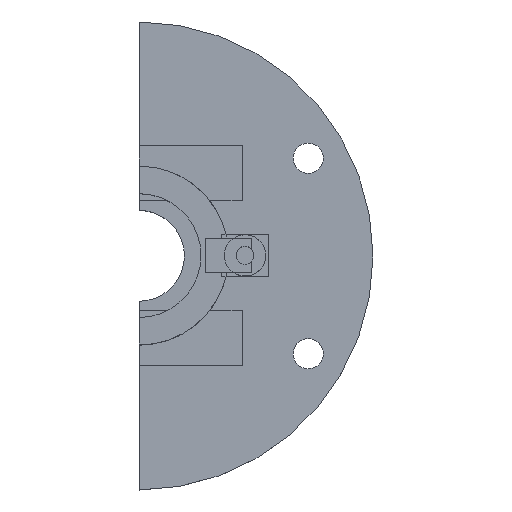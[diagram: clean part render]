
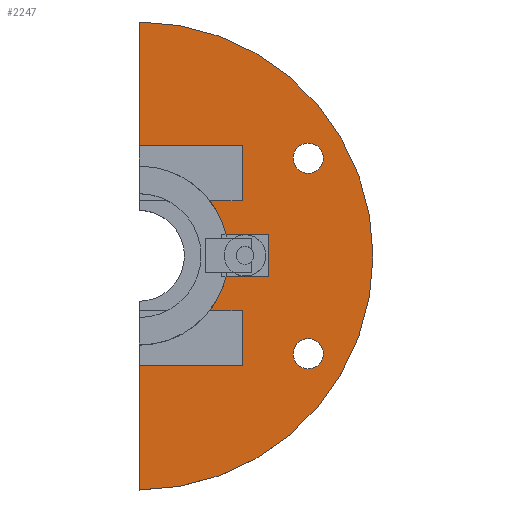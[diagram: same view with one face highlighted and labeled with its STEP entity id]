
A CAD part, top view. The second image highlights one B-rep face of the part: STEP entity #2247.
In plain terms, the highlighted planar face has unit normal (0, 0, 1).
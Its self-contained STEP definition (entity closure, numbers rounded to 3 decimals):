
#100 = PLANE('',#101);
#101 = AXIS2_PLACEMENT_3D('',#102,#103,#104);
#102 = CARTESIAN_POINT('',(0.,-60.,-70.));
#103 = DIRECTION('',(1.,0.,0.));
#104 = DIRECTION('',(0.,0.,1.));
#213 = PLANE('',#214);
#214 = AXIS2_PLACEMENT_3D('',#215,#216,#217);
#215 = CARTESIAN_POINT('',(0.,-60.,-70.));
#216 = DIRECTION('',(1.,0.,0.));
#217 = DIRECTION('',(0.,0.,1.));
#1013 = VERTEX_POINT('',#1014);
#1014 = CARTESIAN_POINT('',(0.,17.,3.));
#1027 = CYLINDRICAL_SURFACE('',#1028,17.);
#1028 = AXIS2_PLACEMENT_3D('',#1029,#1030,#1031);
#1029 = CARTESIAN_POINT('',(0.,0.,1.5));
#1030 = DIRECTION('',(0.,0.,1.));
#1031 = DIRECTION('',(1.,0.,-0.));
#1038 = EDGE_CURVE('',#1039,#1013,#1041,.T.);
#1039 = VERTEX_POINT('',#1040);
#1040 = CARTESIAN_POINT('',(0.,6.5,3.));
#1041 = SURFACE_CURVE('',#1042,(#1046,#1052),.PCURVE_S1.);
#1042 = LINE('',#1043,#1044);
#1043 = CARTESIAN_POINT('',(0.,-30.,3.));
#1044 = VECTOR('',#1045,1.);
#1045 = DIRECTION('',(0.,1.,0.));
#1046 = PCURVE('',#100,#1047);
#1047 = DEFINITIONAL_REPRESENTATION('',(#1048),#1051);
#1048 = B_SPLINE_CURVE_WITH_KNOTS('',1,(#1049,#1050),.UNSPECIFIED.,.F.,
  .F.,(2,2),(13.,47.),.PIECEWISE_BEZIER_KNOTS.);
#1049 = CARTESIAN_POINT('',(73.,-43.));
#1050 = CARTESIAN_POINT('',(73.,-77.));
#1051 = ( GEOMETRIC_REPRESENTATION_CONTEXT(2) 
PARAMETRIC_REPRESENTATION_CONTEXT() REPRESENTATION_CONTEXT('2D SPACE',''
  ) );
#1052 = PCURVE('',#1053,#1058);
#1053 = PLANE('',#1054);
#1054 = AXIS2_PLACEMENT_3D('',#1055,#1056,#1057);
#1055 = CARTESIAN_POINT('',(0.,0.,3.));
#1056 = DIRECTION('',(0.,0.,1.));
#1057 = DIRECTION('',(1.,0.,-0.));
#1058 = DEFINITIONAL_REPRESENTATION('',(#1059),#1062);
#1059 = B_SPLINE_CURVE_WITH_KNOTS('',1,(#1060,#1061),.UNSPECIFIED.,.F.,
  .F.,(2,2),(13.,47.),.PIECEWISE_BEZIER_KNOTS.);
#1060 = CARTESIAN_POINT('',(0.,-17.));
#1061 = CARTESIAN_POINT('',(0.,17.));
#1062 = ( GEOMETRIC_REPRESENTATION_CONTEXT(2) 
PARAMETRIC_REPRESENTATION_CONTEXT() REPRESENTATION_CONTEXT('2D SPACE',''
  ) );
#1077 = CYLINDRICAL_SURFACE('',#1078,6.5);
#1078 = AXIS2_PLACEMENT_3D('',#1079,#1080,#1081);
#1079 = CARTESIAN_POINT('',(0.,0.,1.5));
#1080 = DIRECTION('',(0.,0.,1.));
#1081 = DIRECTION('',(1.,0.,-0.));
#1210 = CYLINDRICAL_SURFACE('',#1211,6.5);
#1211 = AXIS2_PLACEMENT_3D('',#1212,#1213,#1214);
#1212 = CARTESIAN_POINT('',(0.,0.,1.5));
#1213 = DIRECTION('',(0.,0.,1.));
#1214 = DIRECTION('',(1.,0.,-0.));
#1228 = VERTEX_POINT('',#1229);
#1229 = CARTESIAN_POINT('',(0.,-6.5,3.));
#1248 = EDGE_CURVE('',#1249,#1228,#1251,.T.);
#1249 = VERTEX_POINT('',#1250);
#1250 = CARTESIAN_POINT('',(0.,-17.,3.));
#1251 = SURFACE_CURVE('',#1252,(#1256,#1262),.PCURVE_S1.);
#1252 = LINE('',#1253,#1254);
#1253 = CARTESIAN_POINT('',(0.,-30.,3.));
#1254 = VECTOR('',#1255,1.);
#1255 = DIRECTION('',(0.,1.,0.));
#1256 = PCURVE('',#213,#1257);
#1257 = DEFINITIONAL_REPRESENTATION('',(#1258),#1261);
#1258 = B_SPLINE_CURVE_WITH_KNOTS('',1,(#1259,#1260),.UNSPECIFIED.,.F.,
  .F.,(2,2),(13.,47.),.PIECEWISE_BEZIER_KNOTS.);
#1259 = CARTESIAN_POINT('',(73.,-43.));
#1260 = CARTESIAN_POINT('',(73.,-77.));
#1261 = ( GEOMETRIC_REPRESENTATION_CONTEXT(2) 
PARAMETRIC_REPRESENTATION_CONTEXT() REPRESENTATION_CONTEXT('2D SPACE',''
  ) );
#1262 = PCURVE('',#1053,#1263);
#1263 = DEFINITIONAL_REPRESENTATION('',(#1264),#1267);
#1264 = B_SPLINE_CURVE_WITH_KNOTS('',1,(#1265,#1266),.UNSPECIFIED.,.F.,
  .F.,(2,2),(13.,47.),.PIECEWISE_BEZIER_KNOTS.);
#1265 = CARTESIAN_POINT('',(0.,-17.));
#1266 = CARTESIAN_POINT('',(0.,17.));
#1267 = ( GEOMETRIC_REPRESENTATION_CONTEXT(2) 
PARAMETRIC_REPRESENTATION_CONTEXT() REPRESENTATION_CONTEXT('2D SPACE',''
  ) );
#1284 = CYLINDRICAL_SURFACE('',#1285,17.);
#1285 = AXIS2_PLACEMENT_3D('',#1286,#1287,#1288);
#1286 = CARTESIAN_POINT('',(0.,0.,1.5));
#1287 = DIRECTION('',(0.,0.,1.));
#1288 = DIRECTION('',(1.,0.,-0.));
#2202 = VERTEX_POINT('',#2203);
#2203 = CARTESIAN_POINT('',(6.5,0.,3.));
#2224 = EDGE_CURVE('',#2202,#1039,#2225,.T.);
#2225 = SURFACE_CURVE('',#2226,(#2231,#2238),.PCURVE_S1.);
#2226 = CIRCLE('',#2227,6.5);
#2227 = AXIS2_PLACEMENT_3D('',#2228,#2229,#2230);
#2228 = CARTESIAN_POINT('',(0.,0.,3.));
#2229 = DIRECTION('',(0.,0.,1.));
#2230 = DIRECTION('',(1.,0.,-0.));
#2231 = PCURVE('',#1077,#2232);
#2232 = DEFINITIONAL_REPRESENTATION('',(#2233),#2237);
#2233 = LINE('',#2234,#2235);
#2234 = CARTESIAN_POINT('',(0.,1.5));
#2235 = VECTOR('',#2236,1.);
#2236 = DIRECTION('',(1.,0.));
#2237 = ( GEOMETRIC_REPRESENTATION_CONTEXT(2) 
PARAMETRIC_REPRESENTATION_CONTEXT() REPRESENTATION_CONTEXT('2D SPACE',''
  ) );
#2238 = PCURVE('',#1053,#2239);
#2239 = DEFINITIONAL_REPRESENTATION('',(#2240),#2244);
#2240 = CIRCLE('',#2241,6.5);
#2241 = AXIS2_PLACEMENT_2D('',#2242,#2243);
#2242 = CARTESIAN_POINT('',(0.,0.));
#2243 = DIRECTION('',(1.,0.));
#2244 = ( GEOMETRIC_REPRESENTATION_CONTEXT(2) 
PARAMETRIC_REPRESENTATION_CONTEXT() REPRESENTATION_CONTEXT('2D SPACE',''
  ) );
#2247 = ADVANCED_FACE('',(#2248,#2321,#2352),#1053,.T.);
#2248 = FACE_BOUND('',#2249,.T.);
#2249 = EDGE_LOOP('',(#2250,#2274,#2296,#2297,#2298,#2320));
#2250 = ORIENTED_EDGE('',*,*,#2251,.T.);
#2251 = EDGE_CURVE('',#1249,#2252,#2254,.T.);
#2252 = VERTEX_POINT('',#2253);
#2253 = CARTESIAN_POINT('',(17.,0.,3.));
#2254 = SURFACE_CURVE('',#2255,(#2260,#2267),.PCURVE_S1.);
#2255 = CIRCLE('',#2256,17.);
#2256 = AXIS2_PLACEMENT_3D('',#2257,#2258,#2259);
#2257 = CARTESIAN_POINT('',(0.,0.,3.));
#2258 = DIRECTION('',(0.,0.,1.));
#2259 = DIRECTION('',(1.,0.,-0.));
#2260 = PCURVE('',#1053,#2261);
#2261 = DEFINITIONAL_REPRESENTATION('',(#2262),#2266);
#2262 = CIRCLE('',#2263,17.);
#2263 = AXIS2_PLACEMENT_2D('',#2264,#2265);
#2264 = CARTESIAN_POINT('',(0.,0.));
#2265 = DIRECTION('',(1.,0.));
#2266 = ( GEOMETRIC_REPRESENTATION_CONTEXT(2) 
PARAMETRIC_REPRESENTATION_CONTEXT() REPRESENTATION_CONTEXT('2D SPACE',''
  ) );
#2267 = PCURVE('',#1284,#2268);
#2268 = DEFINITIONAL_REPRESENTATION('',(#2269),#2273);
#2269 = LINE('',#2270,#2271);
#2270 = CARTESIAN_POINT('',(0.,1.5));
#2271 = VECTOR('',#2272,1.);
#2272 = DIRECTION('',(1.,0.));
#2273 = ( GEOMETRIC_REPRESENTATION_CONTEXT(2) 
PARAMETRIC_REPRESENTATION_CONTEXT() REPRESENTATION_CONTEXT('2D SPACE',''
  ) );
#2274 = ORIENTED_EDGE('',*,*,#2275,.T.);
#2275 = EDGE_CURVE('',#2252,#1013,#2276,.T.);
#2276 = SURFACE_CURVE('',#2277,(#2282,#2289),.PCURVE_S1.);
#2277 = CIRCLE('',#2278,17.);
#2278 = AXIS2_PLACEMENT_3D('',#2279,#2280,#2281);
#2279 = CARTESIAN_POINT('',(0.,0.,3.));
#2280 = DIRECTION('',(0.,0.,1.));
#2281 = DIRECTION('',(1.,0.,-0.));
#2282 = PCURVE('',#1053,#2283);
#2283 = DEFINITIONAL_REPRESENTATION('',(#2284),#2288);
#2284 = CIRCLE('',#2285,17.);
#2285 = AXIS2_PLACEMENT_2D('',#2286,#2287);
#2286 = CARTESIAN_POINT('',(0.,0.));
#2287 = DIRECTION('',(1.,0.));
#2288 = ( GEOMETRIC_REPRESENTATION_CONTEXT(2) 
PARAMETRIC_REPRESENTATION_CONTEXT() REPRESENTATION_CONTEXT('2D SPACE',''
  ) );
#2289 = PCURVE('',#1027,#2290);
#2290 = DEFINITIONAL_REPRESENTATION('',(#2291),#2295);
#2291 = LINE('',#2292,#2293);
#2292 = CARTESIAN_POINT('',(0.,1.5));
#2293 = VECTOR('',#2294,1.);
#2294 = DIRECTION('',(1.,0.));
#2295 = ( GEOMETRIC_REPRESENTATION_CONTEXT(2) 
PARAMETRIC_REPRESENTATION_CONTEXT() REPRESENTATION_CONTEXT('2D SPACE',''
  ) );
#2296 = ORIENTED_EDGE('',*,*,#1038,.F.);
#2297 = ORIENTED_EDGE('',*,*,#2224,.F.);
#2298 = ORIENTED_EDGE('',*,*,#2299,.F.);
#2299 = EDGE_CURVE('',#1228,#2202,#2300,.T.);
#2300 = SURFACE_CURVE('',#2301,(#2306,#2313),.PCURVE_S1.);
#2301 = CIRCLE('',#2302,6.5);
#2302 = AXIS2_PLACEMENT_3D('',#2303,#2304,#2305);
#2303 = CARTESIAN_POINT('',(0.,0.,3.));
#2304 = DIRECTION('',(0.,0.,1.));
#2305 = DIRECTION('',(1.,0.,-0.));
#2306 = PCURVE('',#1053,#2307);
#2307 = DEFINITIONAL_REPRESENTATION('',(#2308),#2312);
#2308 = CIRCLE('',#2309,6.5);
#2309 = AXIS2_PLACEMENT_2D('',#2310,#2311);
#2310 = CARTESIAN_POINT('',(0.,0.));
#2311 = DIRECTION('',(1.,0.));
#2312 = ( GEOMETRIC_REPRESENTATION_CONTEXT(2) 
PARAMETRIC_REPRESENTATION_CONTEXT() REPRESENTATION_CONTEXT('2D SPACE',''
  ) );
#2313 = PCURVE('',#1210,#2314);
#2314 = DEFINITIONAL_REPRESENTATION('',(#2315),#2319);
#2315 = LINE('',#2316,#2317);
#2316 = CARTESIAN_POINT('',(0.,1.5));
#2317 = VECTOR('',#2318,1.);
#2318 = DIRECTION('',(1.,0.));
#2319 = ( GEOMETRIC_REPRESENTATION_CONTEXT(2) 
PARAMETRIC_REPRESENTATION_CONTEXT() REPRESENTATION_CONTEXT('2D SPACE',''
  ) );
#2320 = ORIENTED_EDGE('',*,*,#1248,.F.);
#2321 = FACE_BOUND('',#2322,.T.);
#2322 = EDGE_LOOP('',(#2323));
#2323 = ORIENTED_EDGE('',*,*,#2324,.F.);
#2324 = EDGE_CURVE('',#2325,#2325,#2327,.T.);
#2325 = VERTEX_POINT('',#2326);
#2326 = CARTESIAN_POINT('',(13.4,-7.1,3.));
#2327 = SURFACE_CURVE('',#2328,(#2333,#2340),.PCURVE_S1.);
#2328 = CIRCLE('',#2329,1.1);
#2329 = AXIS2_PLACEMENT_3D('',#2330,#2331,#2332);
#2330 = CARTESIAN_POINT('',(12.3,-7.1,3.));
#2331 = DIRECTION('',(0.,0.,1.));
#2332 = DIRECTION('',(1.,0.,-0.));
#2333 = PCURVE('',#1053,#2334);
#2334 = DEFINITIONAL_REPRESENTATION('',(#2335),#2339);
#2335 = CIRCLE('',#2336,1.1);
#2336 = AXIS2_PLACEMENT_2D('',#2337,#2338);
#2337 = CARTESIAN_POINT('',(12.3,-7.1));
#2338 = DIRECTION('',(1.,0.));
#2339 = ( GEOMETRIC_REPRESENTATION_CONTEXT(2) 
PARAMETRIC_REPRESENTATION_CONTEXT() REPRESENTATION_CONTEXT('2D SPACE',''
  ) );
#2340 = PCURVE('',#2341,#2346);
#2341 = CYLINDRICAL_SURFACE('',#2342,1.1);
#2342 = AXIS2_PLACEMENT_3D('',#2343,#2344,#2345);
#2343 = CARTESIAN_POINT('',(12.3,-7.1,1.4));
#2344 = DIRECTION('',(0.,0.,1.));
#2345 = DIRECTION('',(1.,0.,-0.));
#2346 = DEFINITIONAL_REPRESENTATION('',(#2347),#2351);
#2347 = LINE('',#2348,#2349);
#2348 = CARTESIAN_POINT('',(0.,1.6));
#2349 = VECTOR('',#2350,1.);
#2350 = DIRECTION('',(1.,0.));
#2351 = ( GEOMETRIC_REPRESENTATION_CONTEXT(2) 
PARAMETRIC_REPRESENTATION_CONTEXT() REPRESENTATION_CONTEXT('2D SPACE',''
  ) );
#2352 = FACE_BOUND('',#2353,.T.);
#2353 = EDGE_LOOP('',(#2354));
#2354 = ORIENTED_EDGE('',*,*,#2355,.F.);
#2355 = EDGE_CURVE('',#2356,#2356,#2358,.T.);
#2356 = VERTEX_POINT('',#2357);
#2357 = CARTESIAN_POINT('',(13.4,7.1,3.));
#2358 = SURFACE_CURVE('',#2359,(#2364,#2371),.PCURVE_S1.);
#2359 = CIRCLE('',#2360,1.1);
#2360 = AXIS2_PLACEMENT_3D('',#2361,#2362,#2363);
#2361 = CARTESIAN_POINT('',(12.3,7.1,3.));
#2362 = DIRECTION('',(0.,0.,1.));
#2363 = DIRECTION('',(1.,0.,-0.));
#2364 = PCURVE('',#1053,#2365);
#2365 = DEFINITIONAL_REPRESENTATION('',(#2366),#2370);
#2366 = CIRCLE('',#2367,1.1);
#2367 = AXIS2_PLACEMENT_2D('',#2368,#2369);
#2368 = CARTESIAN_POINT('',(12.3,7.1));
#2369 = DIRECTION('',(1.,0.));
#2370 = ( GEOMETRIC_REPRESENTATION_CONTEXT(2) 
PARAMETRIC_REPRESENTATION_CONTEXT() REPRESENTATION_CONTEXT('2D SPACE',''
  ) );
#2371 = PCURVE('',#2372,#2377);
#2372 = CYLINDRICAL_SURFACE('',#2373,1.1);
#2373 = AXIS2_PLACEMENT_3D('',#2374,#2375,#2376);
#2374 = CARTESIAN_POINT('',(12.3,7.1,1.4));
#2375 = DIRECTION('',(0.,0.,1.));
#2376 = DIRECTION('',(1.,0.,-0.));
#2377 = DEFINITIONAL_REPRESENTATION('',(#2378),#2382);
#2378 = LINE('',#2379,#2380);
#2379 = CARTESIAN_POINT('',(0.,1.6));
#2380 = VECTOR('',#2381,1.);
#2381 = DIRECTION('',(1.,0.));
#2382 = ( GEOMETRIC_REPRESENTATION_CONTEXT(2) 
PARAMETRIC_REPRESENTATION_CONTEXT() REPRESENTATION_CONTEXT('2D SPACE',''
  ) );
